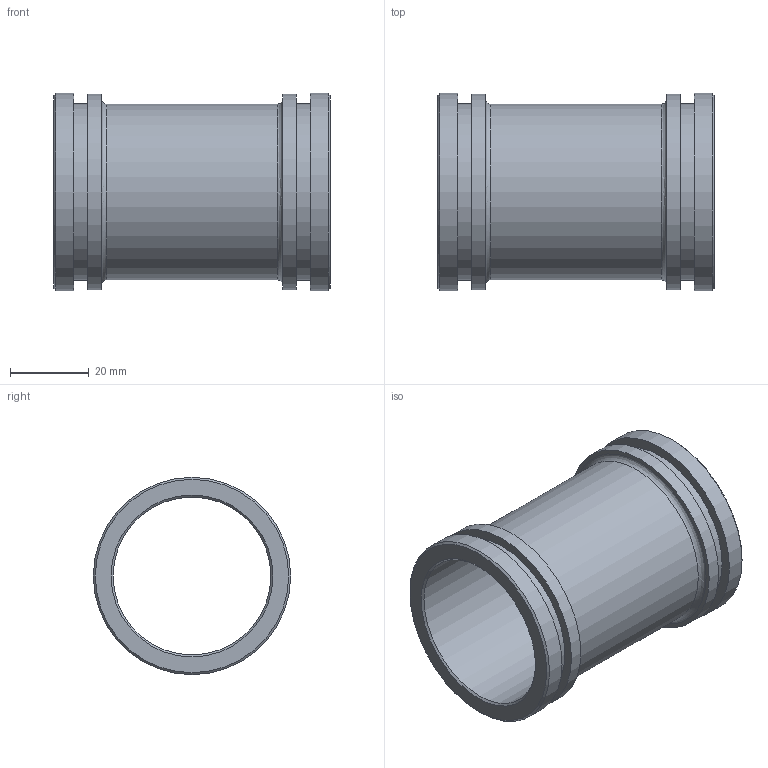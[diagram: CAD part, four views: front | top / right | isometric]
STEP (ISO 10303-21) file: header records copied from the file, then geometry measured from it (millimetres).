
FILE_DESCRIPTION((''),'2;1');
FILE_NAME('N:\CAD\ARCHIV\5350 (-999)\Standardhülsen\5350.040.070\Kundenteil 3D\5350.040.070 Kunden.stp','2009-02-16T08:55:31',('HWalkhoff'),(''),'Autodesk Inventor 2009','Autodesk Inventor 2009','');
FILE_SCHEMA(('AUTOMOTIVE_DESIGN { 1 0 10303 214 1 1 1 1 }'));
Length unit declared in the file: millimetre
Products named in the file (1): Hülse für Kunden
Bounding box: 70 x 50 x 50 mm (x, y, z)
Volume: 27662.4 mm3; surface area: 22169.1 mm2
Topology: 1 solids, 1 shells, 22 faces, 36 edges, 22 vertices
Faces by surface type: cylinder 8, plane 8, cone 4, bspline 2
Full cylindrical faces by diameter (mm): 40 x1, 44.5 x1, 44.76 x2, 49.5 x2, 50 x2
Entity records: 554 total; most frequent: CARTESIAN_POINT 155, DIRECTION 86, ORIENTED_EDGE 44, EDGE_LOOP 44, AXIS2_PLACEMENT_3D 43, VERTEX_POINT 22, CIRCLE 22, EDGE_CURVE 22
